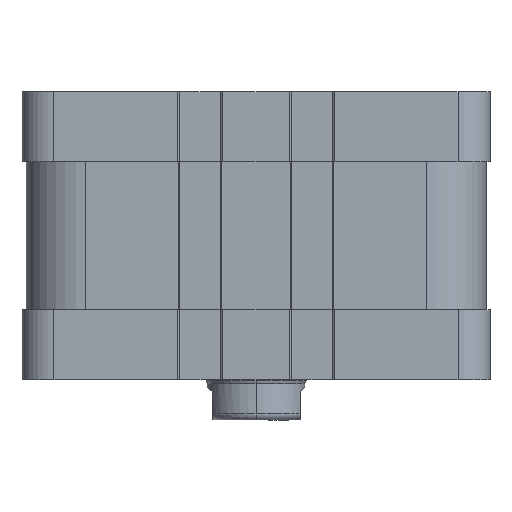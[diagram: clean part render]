
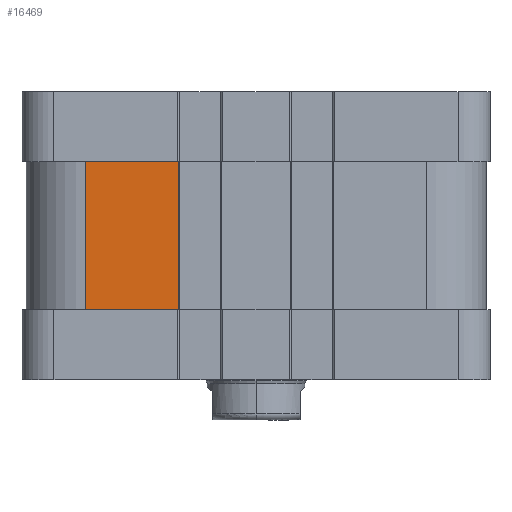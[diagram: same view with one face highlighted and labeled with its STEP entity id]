
A CAD part, left-side view. The second image highlights one B-rep face of the part: STEP entity #16469.
In plain terms, the highlighted planar face has unit normal (-1, 0, 0).
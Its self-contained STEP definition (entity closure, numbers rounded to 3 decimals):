
#9181=CARTESIAN_POINT('',(-31.75,-15.1,-11.6));
#9182=VERTEX_POINT('',#9181);
#9190=CARTESIAN_POINT('',(-31.75,8.0,-11.6));
#9191=VERTEX_POINT('',#9190);
#9192=CARTESIAN_POINT('',(-31.75,8.0,-11.6));
#9193=DIRECTION('',(0.0,-1.0,0.0));
#9194=VECTOR('',#9193,23.1);
#9195=LINE('',#9192,#9194);
#9196=EDGE_CURVE('',#9191,#9182,#9195,.T.);
#12002=CARTESIAN_POINT('',(-31.75,8.0,25.4));
#12003=VERTEX_POINT('',#12002);
#12011=CARTESIAN_POINT('',(-31.75,-15.1,25.4));
#12012=VERTEX_POINT('',#12011);
#12013=CARTESIAN_POINT('',(-31.75,-15.1,25.4));
#12014=DIRECTION('',(0.0,1.0,0.0));
#12015=VECTOR('',#12014,23.1);
#12016=LINE('',#12013,#12015);
#12017=EDGE_CURVE('',#12012,#12003,#12016,.T.);
#16387=CARTESIAN_POINT('',(-31.75,-15.1,25.4));
#16388=DIRECTION('',(0.0,0.0,-1.0));
#16389=VECTOR('',#16388,37.);
#16390=LINE('',#16387,#16389);
#16391=EDGE_CURVE('',#12012,#9182,#16390,.T.);
#16453=CARTESIAN_POINT('',(-31.75,-77.0,-11.6));
#16454=DIRECTION('',(-1.0,0.0,0.0));
#16455=DIRECTION('',(0.0,0.0,1.0));
#16456=AXIS2_PLACEMENT_3D('',#16453,#16454,#16455);
#16457=PLANE('',#16456);
#16458=ORIENTED_EDGE('',*,*,#16391,.F.);
#16459=ORIENTED_EDGE('',*,*,#12017,.T.);
#16460=CARTESIAN_POINT('',(-31.75,8.0,-11.6));
#16461=DIRECTION('',(0.0,0.0,1.0));
#16462=VECTOR('',#16461,37.);
#16463=LINE('',#16460,#16462);
#16464=EDGE_CURVE('',#9191,#12003,#16463,.T.);
#16465=ORIENTED_EDGE('',*,*,#16464,.F.);
#16466=ORIENTED_EDGE('',*,*,#9196,.T.);
#16467=EDGE_LOOP('',(#16458,#16459,#16465,#16466));
#16468=FACE_OUTER_BOUND('',#16467,.T.);
#16469=ADVANCED_FACE('',(#16468),#16457,.T.);
